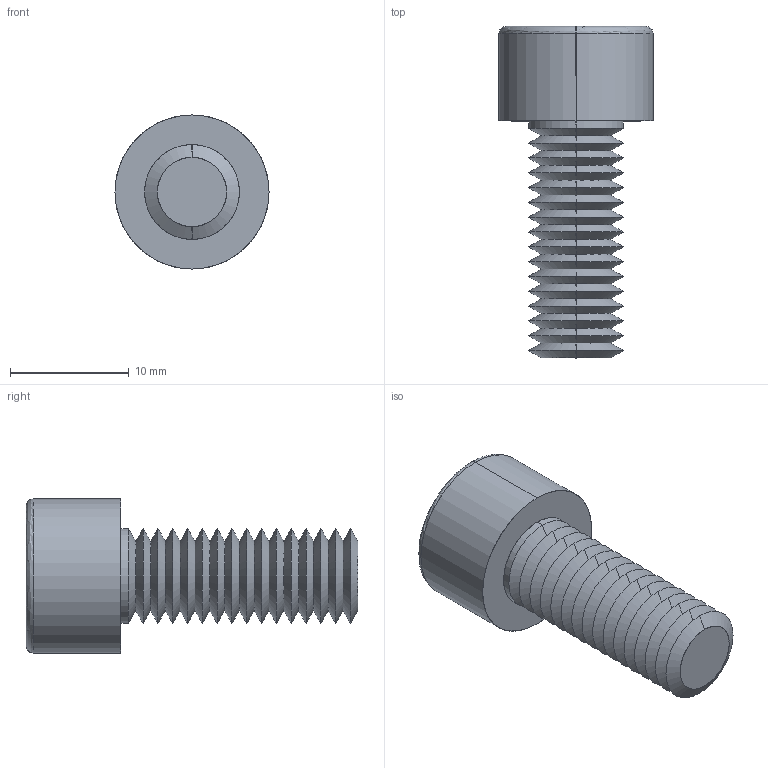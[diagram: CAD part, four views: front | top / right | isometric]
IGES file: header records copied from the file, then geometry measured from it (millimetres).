
Start section: SolidWorks IGES file using analytic representation for surfaces
Global section: file name: C:\Users\ianosborn\Desktop\N0007.91N_v2\N0007.91N_v2_20250519_IGES\91N.080.0200.igs; native system: SolidWorks 2019; preprocessor: SolidWorks 2019; author: IanOsborn; date: 250520.095402; units: millimetre
Bounding box: 13 x 28 x 13 mm (x, y, z)
Surface area: 1543 mm2 (no closed solid volume)
Topology: 0 solids, 0 shells, 92 faces, 565 edges, 563 vertices
Faces by surface type: revolution 75, bspline 17
